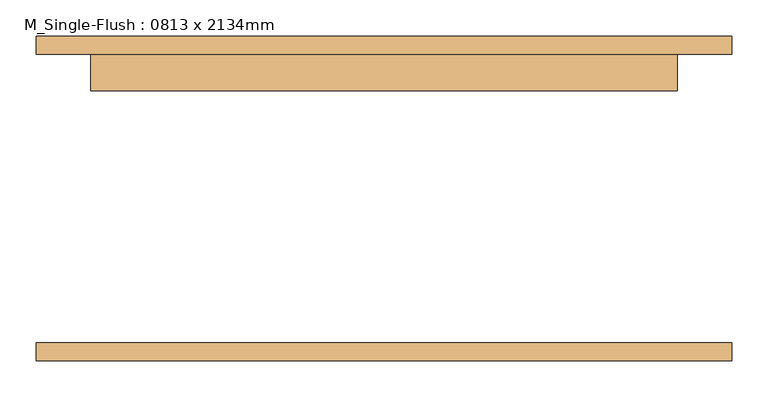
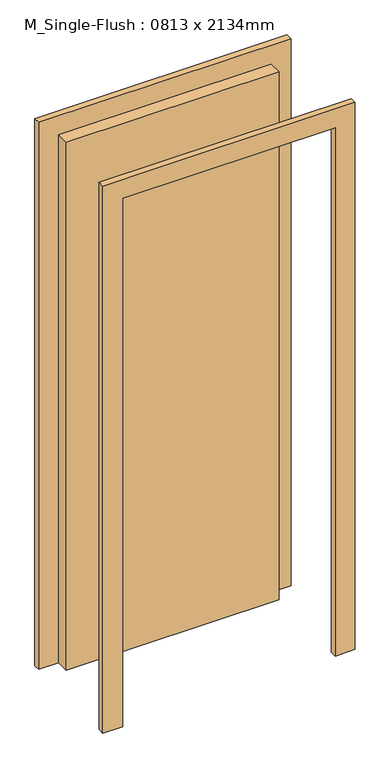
"""IFC4 building model written with IfcOpenShell, lengths in millimetres: door geometry, M_Single-Flush : 0813 x 2134mm."""

from ifc_helpers import new_model, si_unit, frame, origin, origin_with_axes, place, context, project, spatial, polyline, outline, extrude, source, transform, mapped, element, save


def m_single_flush_0813_x_2134mm_e3698503(model_context):
    return source(origin(), model_context, "Body", "SweptSolid", [
        extrude(outline(polyline([(2210.0, -482.5), (0.0, -482.5), (0.0, -406.5), (2134.0, -406.5), (2134.0, 406.5), (0.0, 406.5), (0.0, 482.5), (2210.0, 482.5), (2210.0, -482.5)])), frame((0.0, 200.0, 0.0), z_axis=(0.0, 1.0, 0.0), x_axis=(0.0, 0.0, 1.0)), (0.0, 0.0, 1.0), 25.0),
        extrude(outline(polyline([(2210.0, 482.5), (2210.0, -482.5), (0.0, -482.5), (0.0, -406.5), (2134.0, -406.5), (2134.0, 406.5), (0.0, 406.5), (0.0, 482.5), (2210.0, 482.5)])), frame((0.0, -225.0, 0.0), z_axis=(0.0, 1.0, 0.0), x_axis=(0.0, 0.0, 1.0)), (0.0, 0.0, 1.0), 25.0),
        extrude(outline(polyline([(406.5, 149.0), (-406.5, 149.0), (-406.5, 200.0), (406.5, 200.0), (406.5, 149.0)])), origin_with_axes(), (0.0, 0.0, 1.0), 2134.0),
    ])


if __name__ == "__main__":
    model = new_model("IFC4")
    model_context = context("Model", 3, world=origin())
    ifc_project = project(units=[si_unit("LENGTHUNIT", "METRE", prefix="MILLI")], contexts=[model_context])
    site = spatial("IfcSite", under=ifc_project)
    building = spatial("IfcBuilding", under=site)
    placement = place(None, origin())
    m_single_flush_0813_x_2134mm_shape = m_single_flush_0813_x_2134mm_e3698503(model_context)
    element("IfcDoor", 1, ObjectType="M_Single-Flush : 0813 x 2134mm", at=placement, inside=building, context=model_context, shape_type="MappedRepresentation", body=[
        mapped(m_single_flush_0813_x_2134mm_shape, transform((0.0, 0.0, 0.0), x_axis=(1.0, 0.0, 0.0), y_axis=(0.0, 1.0, 0.0), z_axis=(0.0, 0.0, 1.0))),
    ])
    save(model, "model.ifc")
